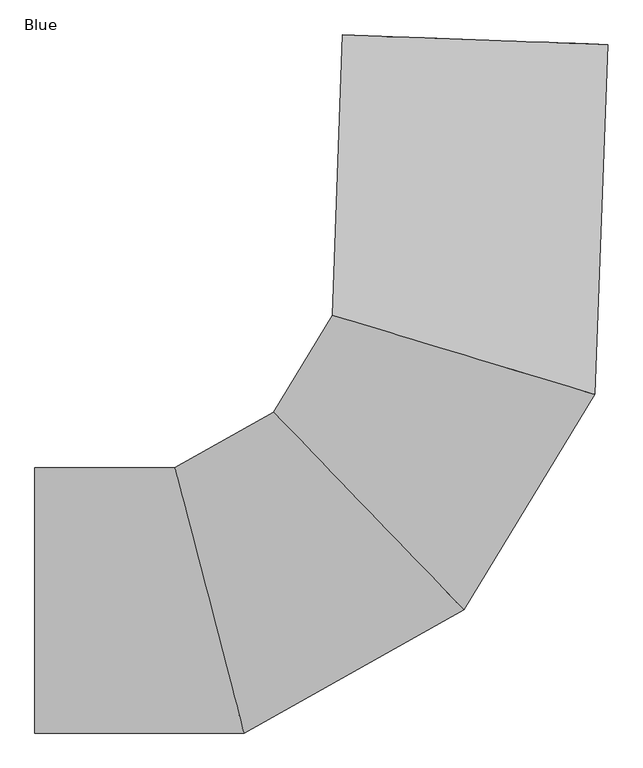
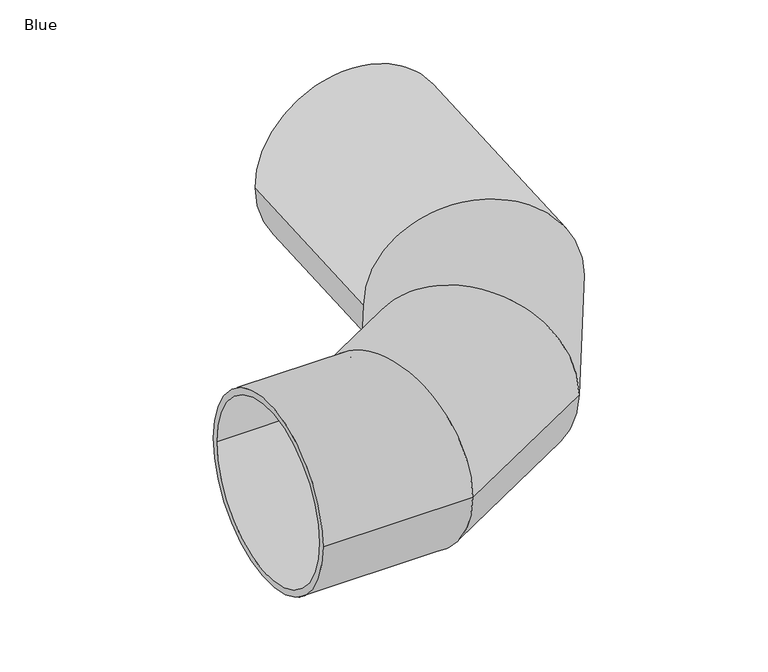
"""IFC4 building model written with IfcOpenShell, lengths in millimetres: pipe fitting geometry, AWADUKT PP SN10 SBend : Blue."""

from ifc_helpers import new_model, si_unit, frame, origin, place, context, project, spatial, polyline, circle_curve, ellipse_curve, source, transform, mapped, element, save
from ifc_brep_helpers import plane_surface, cylinder_surface, revolved_surface, advanced_brep


def blue_626d8923(model_context):
    return source(origin(), model_context, "Body", "AdvancedBrep", [
        advanced_brep(
        [(-791.0, -250.0, 0.0), (-791.0, 250.0, 0.0), (-791.0, -232.9, 0.0), (-791.0, 232.9, 0.0), (288.5278548, 1046.1298567, 0.0), (-211.1363421, 1064.451711, 0.0), (271.4393393, 1046.7564641, 0.0), (-194.0478265, 1063.8251036, 0.0), (-401.3965184, -232.9, 0.0), (-523.1624965, 232.9, 0.0), (-396.9263634, -250.0, 0.0), (-527.6326516, 250.0, 0.0), (4.7836792, -4.9623037, 0.0), (-329.3590347, 341.6574305, 0.0), (17.050404, -17.6870728, 0.0), (-341.6257595, 354.3821996, 0.0), (247.45224, 392.5926183, 0.0), (-213.5729688, 531.3454571, 0.0), (264.3769525, 387.498858, 0.0), (-230.4976813, 536.4392174, 0.0)],
        [
            (0, 1, circle_curve(frame((-791.0, 0.0, 0.0), z_axis=(-1.0, 0.0, 0.0), x_axis=(0.0, 1.0, 0.0)), 250.0)),
            (1, 0, circle_curve(frame((-791.0, 0.0, 0.0), z_axis=(-1.0, 0.0, 0.0), x_axis=(0.0, 1.0, 0.0)), 250.0)),
            (2, 3, circle_curve(frame((-791.0, 0.0, 0.0), z_axis=(1.0, 0.0, 0.0), x_axis=(0.0, 1.0, 0.0)), 232.9)),
            (3, 2, circle_curve(frame((-791.0, 0.0, 0.0), z_axis=(1.0, 0.0, 0.0), x_axis=(0.0, 1.0, 0.0)), 232.9)),
            (4, 5, circle_curve(frame((38.6957564, 1055.2907838, 0.0), z_axis=(0.03664370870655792, 0.9993283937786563, 0.0), x_axis=(-0.9993283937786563, 0.03664370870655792, 0.0)), 250.0)),
            (5, 4, circle_curve(frame((38.6957564, 1055.2907838, 0.0), z_axis=(0.03664370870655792, 0.9993283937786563, 0.0), x_axis=(-0.9993283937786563, 0.03664370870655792, 0.0)), 250.0)),
            (6, 7, circle_curve(frame((38.6957564, 1055.2907838, 0.0), z_axis=(-0.03664370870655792, -0.9993283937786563, 0.0), x_axis=(-0.9993283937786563, 0.03664370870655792, 0.0)), 232.9)),
            (7, 6, circle_curve(frame((38.6957564, 1055.2907838, 0.0), z_axis=(-0.03664370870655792, -0.9993283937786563, 0.0), x_axis=(-0.9993283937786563, 0.03664370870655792, 0.0)), 232.9)),
            (2, 8),
            (8, 9, ellipse_curve(frame((-462.2795075, 0.0, 0.0), z_axis=(0.9674888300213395, 0.2529137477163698, 0.0), x_axis=(0.2529137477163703, -0.9674888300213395, 0.0)), 240.7262934, 232.9)),
            (9, 3),
            (9, 8, ellipse_curve(frame((-462.2795075, 0.0, 0.0), z_axis=(0.9674888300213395, 0.2529137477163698, 0.0), x_axis=(0.2529137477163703, -0.9674888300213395, 0.0)), 240.7262934, 232.9)),
            (0, 10),
            (10, 11, ellipse_curve(frame((-462.2795075, 0.0, 0.0), z_axis=(-0.9674888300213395, -0.2529137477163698, 0.0), x_axis=(-0.2529137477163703, 0.9674888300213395, 0.0)), 258.4009161, 250.0)),
            (11, 1),
            (11, 10, ellipse_curve(frame((-462.2795075, 0.0, 0.0), z_axis=(-0.9674888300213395, -0.2529137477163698, 0.0), x_axis=(-0.2529137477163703, 0.9674888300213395, 0.0)), 258.4009161, 250.0)),
            (8, 12),
            (12, 13, ellipse_curve(frame((-162.2876777, 168.3475634, 0.0), z_axis=(0.7199457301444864, 0.694030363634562, 0.0), x_axis=(0.6940303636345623, -0.719945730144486, 0.0)), 240.7262934, 232.9)),
            (13, 9),
            (13, 12, ellipse_curve(frame((-162.2876777, 168.3475634, 0.0), z_axis=(0.7199457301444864, 0.694030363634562, 0.0), x_axis=(0.6940303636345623, -0.719945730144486, 0.0)), 240.7262934, 232.9)),
            (10, 14),
            (14, 15, ellipse_curve(frame((-162.2876777, 168.3475634, 0.0), z_axis=(-0.7199457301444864, -0.694030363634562, 0.0), x_axis=(-0.6940303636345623, 0.719945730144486, 0.0)), 258.4009161, 250.0)),
            (15, 11),
            (15, 14, ellipse_curve(frame((-162.2876777, 168.3475634, 0.0), z_axis=(-0.7199457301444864, -0.694030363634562, 0.0), x_axis=(-0.6940303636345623, 0.719945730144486, 0.0)), 258.4009161, 250.0)),
            (12, 16),
            (16, 17, ellipse_curve(frame((16.9396356, 461.9690377, 0.0), z_axis=(0.2881962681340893, 0.9575713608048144, 0.0), x_axis=(0.9575713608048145, -0.2881962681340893, 0.0)), 240.7262934, 232.9)),
            (17, 13),
            (17, 16, ellipse_curve(frame((16.9396356, 461.9690377, 0.0), z_axis=(0.2881962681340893, 0.9575713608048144, 0.0), x_axis=(0.9575713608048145, -0.2881962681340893, 0.0)), 240.7262934, 232.9)),
            (14, 18),
            (18, 19, ellipse_curve(frame((16.9396356, 461.9690377, 0.0), z_axis=(-0.2881962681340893, -0.9575713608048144, 0.0), x_axis=(-0.9575713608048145, 0.2881962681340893, 0.0)), 258.4009161, 250.0)),
            (19, 15),
            (19, 18, ellipse_curve(frame((16.9396356, 461.9690377, 0.0), z_axis=(-0.2881962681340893, -0.9575713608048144, 0.0), x_axis=(-0.9575713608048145, 0.2881962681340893, 0.0)), 258.4009161, 250.0)),
            (16, 6),
            (7, 17),
            (18, 4),
            (5, 19),
        ],
        [
            plane_surface(frame((-791.0, 0.0, 0.0), z_axis=(-1.0, 0.0, 0.0), x_axis=(0.0, 0.0, 1.0))),
            plane_surface(frame((38.6957564, 1055.2907838, 0.0), z_axis=(0.03664370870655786, 0.9993283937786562, 0.0), x_axis=(0.0, 0.0, 1.0))),
            revolved_surface(polyline([(-401.3965184, 232.9, 0.0), (-791.0, 232.9, 0.0)]), (-791.0, 0.0, 0.0), (1.0, 0.0, 0.0)),
            cylinder_surface(frame((-791.0, 0.0, 0.0), z_axis=(-1.0, 0.0, 0.0), x_axis=(0.0, 1.0, 0.0)), 250.0),
            revolved_surface(polyline([(-223.1706667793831, 401.2475634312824, 0.0), (-629.3508644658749, 173.3098671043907, 0.0)]), (-462.2795075, 0.0, 0.0), (0.8720692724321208, 0.48938245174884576, 0.0)),
            cylinder_surface(frame((-462.2795075, 0.0, 0.0), z_axis=(-0.8720692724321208, -0.48938245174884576, 0.0), x_axis=(-0.48938245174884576, 0.8720692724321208, 0.0)), 250.0),
            revolved_surface(polyline([(-150.13172131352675, 635.2789047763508, 0.0), (-392.8002821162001, 237.72398277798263, 0.0)]), (-162.2876777, 168.3475634, 0.0), (0.5210096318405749, 0.8535507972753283, 0.0)),
            cylinder_surface(frame((-162.2876777, 168.3475634, 0.0), z_axis=(-0.5210096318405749, -0.8535507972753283, 0.0), x_axis=(-0.8535507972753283, 0.5210096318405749, 0.0)), 250.0),
            revolved_surface(polyline([(-194.04782652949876, 1063.8251036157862, 0.0), (-218.0349258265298, 409.6612578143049, 0.0)]), (16.9396356, 461.9690377, 0.0), (0.03664370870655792, 0.9993283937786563, 0.0)),
            cylinder_surface(frame((16.9396356, 461.9690377, 0.0), z_axis=(-0.03664370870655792, -0.9993283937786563, 0.0), x_axis=(-0.9993283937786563, 0.03664370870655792, 0.0)), 250.0),
        ],
        [
            (0, [[1, 2], [3, 4]]),
            (1, [[5, 6], [7, 8]]),
            (2, [[-3, 9, 10, 11]]),
            (2, [[-4, -11, 12, -9]]),
            (3, [[-1, 13, 14, 15]]),
            (3, [[-2, -15, 16, -13]]),
            (4, [[-10, 17, 18, 19]]),
            (4, [[-12, -19, 20, -17]]),
            (5, [[-14, 21, 22, 23]]),
            (5, [[-16, -23, 24, -21]]),
            (6, [[-18, 25, 26, 27]]),
            (6, [[-20, -27, 28, -25]]),
            (7, [[-22, 29, 30, 31]]),
            (7, [[-24, -31, 32, -29]]),
            (8, [[-26, 33, -8, 34]]),
            (8, [[-28, -34, -7, -33]]),
            (9, [[-30, 35, -6, 36]]),
            (9, [[-32, -36, -5, -35]]),
        ],
    ),
    ])


if __name__ == "__main__":
    model = new_model("IFC4")
    model_context = context("Model", 3, world=origin())
    ifc_project = project(units=[si_unit("LENGTHUNIT", "METRE", prefix="MILLI")], contexts=[model_context])
    site = spatial("IfcSite", under=ifc_project)
    building = spatial("IfcBuilding", under=site)
    placement = place(None, origin())
    blue_shape = blue_626d8923(model_context)
    element("IfcPipeFitting", 1, ObjectType="AWADUKT PP SN10 SBend : Blue", at=placement, inside=building, context=model_context, shape_type="MappedRepresentation", body=[
        mapped(blue_shape, transform((0.0, 0.0, 0.0), x_axis=(1.0, 0.0, 0.0), y_axis=(0.0, 1.0, 0.0), z_axis=(0.0, 0.0, 1.0))),
    ])
    save(model, "model.ifc")
